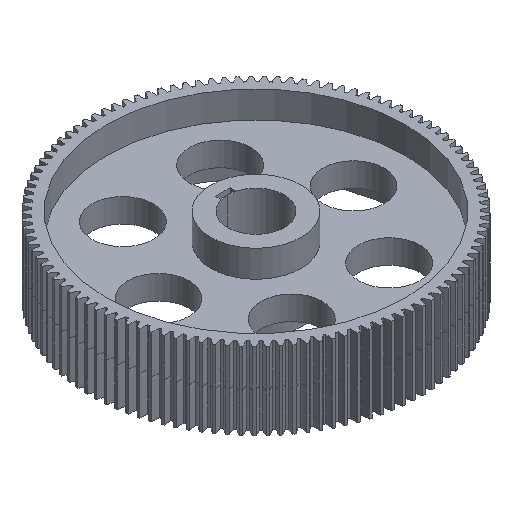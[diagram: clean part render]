
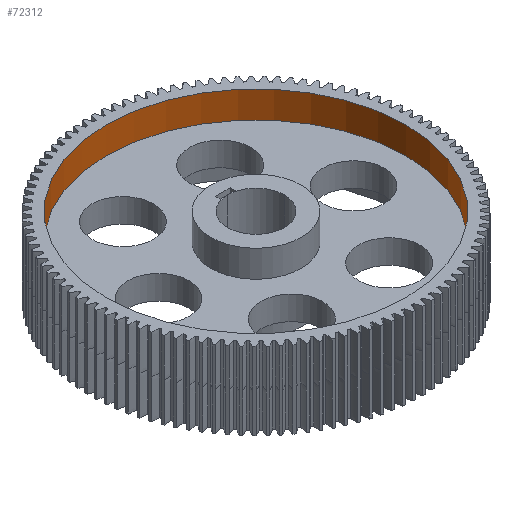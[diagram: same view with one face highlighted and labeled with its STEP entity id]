
A CAD part, isometric view. The second image highlights one B-rep face of the part: STEP entity #72312.
In plain terms, the highlighted cylindrical face has radius 100.5 mm (diameter 201 mm), a full revolution.
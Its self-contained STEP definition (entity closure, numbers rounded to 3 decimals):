
#318 = PLANE('',#319);
#319 = AXIS2_PLACEMENT_3D('',#320,#321,#322);
#320 = CARTESIAN_POINT('',(0.,0.,26.));
#321 = DIRECTION('',(0.,0.,1.));
#322 = DIRECTION('',(1.,0.,-0.));
#42004 = EDGE_CURVE('',#42005,#42005,#42007,.T.);
#42005 = VERTEX_POINT('',#42006);
#42006 = CARTESIAN_POINT('',(100.5,0.,26.));
#42007 = SURFACE_CURVE('',#42008,(#42013,#42020),.PCURVE_S1.);
#42008 = CIRCLE('',#42009,100.5);
#42009 = AXIS2_PLACEMENT_3D('',#42010,#42011,#42012);
#42010 = CARTESIAN_POINT('',(0.,0.,26.));
#42011 = DIRECTION('',(0.,0.,1.));
#42012 = DIRECTION('',(1.,0.,-0.));
#42013 = PCURVE('',#318,#42014);
#42014 = DEFINITIONAL_REPRESENTATION('',(#42015),#42019);
#42015 = CIRCLE('',#42016,100.5);
#42016 = AXIS2_PLACEMENT_2D('',#42017,#42018);
#42017 = CARTESIAN_POINT('',(0.,0.));
#42018 = DIRECTION('',(1.,0.));
#42019 = ( GEOMETRIC_REPRESENTATION_CONTEXT(2) 
PARAMETRIC_REPRESENTATION_CONTEXT() REPRESENTATION_CONTEXT('2D SPACE',''
  ) );
#42020 = PCURVE('',#42021,#42026);
#42021 = CYLINDRICAL_SURFACE('',#42022,100.5);
#42022 = AXIS2_PLACEMENT_3D('',#42023,#42024,#42025);
#42023 = CARTESIAN_POINT('',(0.,0.,8.));
#42024 = DIRECTION('',(0.,0.,1.));
#42025 = DIRECTION('',(1.,0.,-0.));
#42026 = DEFINITIONAL_REPRESENTATION('',(#42027),#42031);
#42027 = LINE('',#42028,#42029);
#42028 = CARTESIAN_POINT('',(0.,18.));
#42029 = VECTOR('',#42030,1.);
#42030 = DIRECTION('',(1.,0.));
#42031 = ( GEOMETRIC_REPRESENTATION_CONTEXT(2) 
PARAMETRIC_REPRESENTATION_CONTEXT() REPRESENTATION_CONTEXT('2D SPACE',''
  ) );
#72312 = ADVANCED_FACE('',(#72313),#42021,.F.);
#72313 = FACE_BOUND('',#72314,.F.);
#72314 = EDGE_LOOP('',(#72315,#72316,#72339,#72366));
#72315 = ORIENTED_EDGE('',*,*,#42004,.F.);
#72316 = ORIENTED_EDGE('',*,*,#72317,.F.);
#72317 = EDGE_CURVE('',#72318,#42005,#72320,.T.);
#72318 = VERTEX_POINT('',#72319);
#72319 = CARTESIAN_POINT('',(100.5,0.,8.));
#72320 = SEAM_CURVE('',#72321,(#72325,#72332),.PCURVE_S1.);
#72321 = LINE('',#72322,#72323);
#72322 = CARTESIAN_POINT('',(100.5,0.,8.));
#72323 = VECTOR('',#72324,1.);
#72324 = DIRECTION('',(0.,0.,1.));
#72325 = PCURVE('',#42021,#72326);
#72326 = DEFINITIONAL_REPRESENTATION('',(#72327),#72331);
#72327 = LINE('',#72328,#72329);
#72328 = CARTESIAN_POINT('',(6.283,-0.));
#72329 = VECTOR('',#72330,1.);
#72330 = DIRECTION('',(0.,1.));
#72331 = ( GEOMETRIC_REPRESENTATION_CONTEXT(2) 
PARAMETRIC_REPRESENTATION_CONTEXT() REPRESENTATION_CONTEXT('2D SPACE',''
  ) );
#72332 = PCURVE('',#42021,#72333);
#72333 = DEFINITIONAL_REPRESENTATION('',(#72334),#72338);
#72334 = LINE('',#72335,#72336);
#72335 = CARTESIAN_POINT('',(0.,-0.));
#72336 = VECTOR('',#72337,1.);
#72337 = DIRECTION('',(0.,1.));
#72338 = ( GEOMETRIC_REPRESENTATION_CONTEXT(2) 
PARAMETRIC_REPRESENTATION_CONTEXT() REPRESENTATION_CONTEXT('2D SPACE',''
  ) );
#72339 = ORIENTED_EDGE('',*,*,#72340,.T.);
#72340 = EDGE_CURVE('',#72318,#72318,#72341,.T.);
#72341 = SURFACE_CURVE('',#72342,(#72347,#72354),.PCURVE_S1.);
#72342 = CIRCLE('',#72343,100.5);
#72343 = AXIS2_PLACEMENT_3D('',#72344,#72345,#72346);
#72344 = CARTESIAN_POINT('',(0.,0.,8.));
#72345 = DIRECTION('',(0.,0.,1.));
#72346 = DIRECTION('',(1.,0.,-0.));
#72347 = PCURVE('',#42021,#72348);
#72348 = DEFINITIONAL_REPRESENTATION('',(#72349),#72353);
#72349 = LINE('',#72350,#72351);
#72350 = CARTESIAN_POINT('',(0.,0.));
#72351 = VECTOR('',#72352,1.);
#72352 = DIRECTION('',(1.,0.));
#72353 = ( GEOMETRIC_REPRESENTATION_CONTEXT(2) 
PARAMETRIC_REPRESENTATION_CONTEXT() REPRESENTATION_CONTEXT('2D SPACE',''
  ) );
#72354 = PCURVE('',#72355,#72360);
#72355 = PLANE('',#72356);
#72356 = AXIS2_PLACEMENT_3D('',#72357,#72358,#72359);
#72357 = CARTESIAN_POINT('',(0.,0.,8.));
#72358 = DIRECTION('',(0.,0.,1.));
#72359 = DIRECTION('',(1.,0.,-0.));
#72360 = DEFINITIONAL_REPRESENTATION('',(#72361),#72365);
#72361 = CIRCLE('',#72362,100.5);
#72362 = AXIS2_PLACEMENT_2D('',#72363,#72364);
#72363 = CARTESIAN_POINT('',(0.,0.));
#72364 = DIRECTION('',(1.,0.));
#72365 = ( GEOMETRIC_REPRESENTATION_CONTEXT(2) 
PARAMETRIC_REPRESENTATION_CONTEXT() REPRESENTATION_CONTEXT('2D SPACE',''
  ) );
#72366 = ORIENTED_EDGE('',*,*,#72317,.T.);
